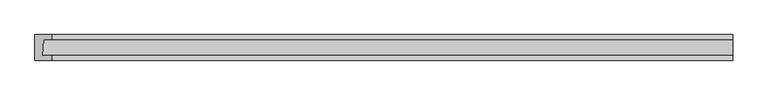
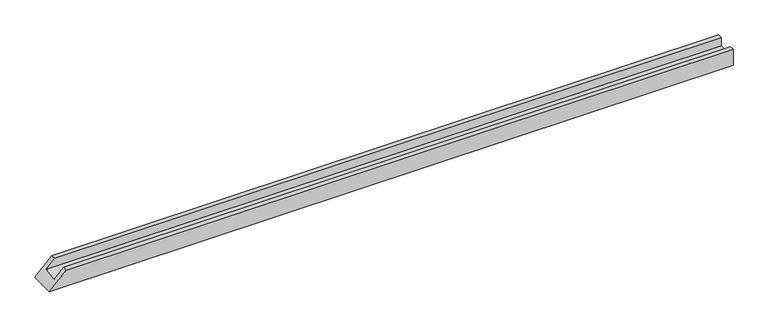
"""IFC4 building model written with IfcOpenShell, lengths in millimetres: proxy geometry, Weiku - Montante - Caixilho duplo 02.2.01.002 : Weiku - Montante - Caixilho duplo 02.2.01.002."""

from ifc_helpers import new_model, si_unit, origin, place, context, project, spatial, faceted_brep, source, transform, mapped, element, save


def generic_models_44db3fef(model_context):
    return source(origin(), model_context, "Body", "Brep", [
        faceted_brep([(1047.5, -15.0, 52.0), (-995.5, -15.0, 52.0), (-1021.5, -15.0, 26.0), (1047.5, -15.0, 26.0), (-1023.7229744, -62.0, 23.7770256), (1047.5, -62.0, 23.7770256), (-995.5, -62.0, 52.0), (1047.5, -62.0, 52.0), (-995.5, -77.0, 52.0), (1047.5, -77.0, 52.0), (-1047.5, -77.0, 0.0), (1047.5, -77.0, 0.0), (-1047.5, 0.0, 0.0), (1047.5, 0.0, 0.0), (-995.5, 0.0, 52.0), (1047.5, 0.0, 52.0)], [[[0, 1, 2, 3]], [[3, 2, 4, 5]], [[5, 4, 6, 7]], [[7, 6, 8, 9]], [[9, 8, 10, 11]], [[11, 10, 12, 13]], [[13, 12, 14, 15]], [[15, 14, 1, 0]], [[1, 14, 12, 10, 8, 6, 4, 2]], [[0, 3, 5, 7, 9, 11, 13, 15]]]),
    ])


if __name__ == "__main__":
    model = new_model("IFC4")
    model_context = context("Model", 3, world=origin())
    ifc_project = project(units=[si_unit("LENGTHUNIT", "METRE", prefix="MILLI")], contexts=[model_context])
    site = spatial("IfcSite", under=ifc_project)
    building = spatial("IfcBuilding", under=site)
    placement = place(None, origin())
    generic_models_shape = generic_models_44db3fef(model_context)
    element("IfcBuildingElementProxy", 1, Name="Weiku - Montante - Caixilho duplo 02.2.01.002 : Weiku - Montante - Caixilho duplo 02.2.01.002", ObjectType="Weiku - Montante - Caixilho duplo 02.2.01.002 : Weiku - Montante - Caixilho duplo 02.2.01.002", at=placement, inside=building, context=model_context, shape_type="MappedRepresentation", body=[
        mapped(generic_models_shape, transform((0.0, 0.0, 0.0), x_axis=(1.0, 0.0, 0.0), y_axis=(0.0, 1.0, 0.0), z_axis=(0.0, 0.0, 1.0))),
    ])
    save(model, "model.ifc")
